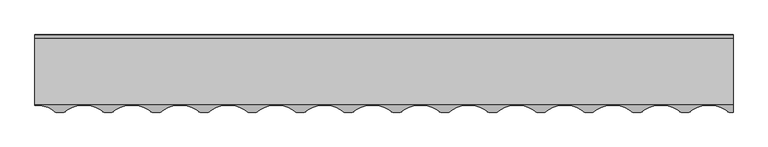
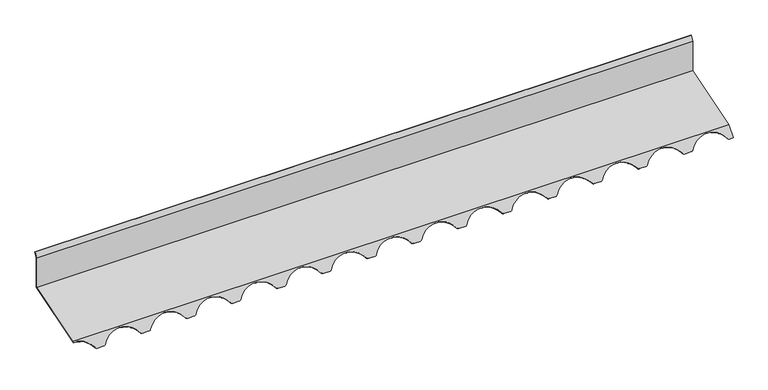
"""IFC4 building model written with IfcOpenShell, lengths in millimetres: proxy geometry, H20.F20.003-E-REMATES TEJA-Troquelado a Pared : Troquelado a Pared Teja."""

from ifc_helpers import new_model, si_unit, point, frame, origin, place, context, project, spatial, ellipse_curve, trimmed, source, transform, mapped, element, save
from ifc_brep_helpers import plane_surface, extruded_surface, advanced_brep


def generic_models_f9b15205(model_context):
    return source(origin(), model_context, "Body", "AdvancedBrep", [
        advanced_brep(
        [(2500.0, 0.0, 0.0), (2500.0, -230.5094655, -70.473816), (2500.0, -257.6202057, -106.3904941), (2500.0, -256.3431683, -107.3544315), (2500.0, -229.5451993, -71.852117), (2500.0, 1.6, -1.1839377), (2500.0, 1.6, 114.1712813), (2500.0, 11.5588457, 131.4205081), (2500.0, 10.0, 132.3205081), (2500.0, 0.0, 115.0), (80.0, 0.0, 0.0), (80.0, -230.5094655, -70.473816), (80.0, -233.3387485, -74.2220887), (147.7180237, -255.2613563, -103.2654582), (154.6321739, -257.6202057, -106.3904941), (178.6878261, -257.6202057, -106.3904941), (185.6019763, -255.2613563, -103.2654582), (314.3780237, -255.2613563, -103.2654582), (321.2921739, -257.6202057, -106.3904941), (345.3478261, -257.6202057, -106.3904941), (352.2619763, -255.2613563, -103.2654582), (481.0380237, -255.2613563, -103.2654582), (487.9521739, -257.6202057, -106.3904941), (512.0078261, -257.6202057, -106.3904941), (518.9219763, -255.2613563, -103.2654582), (647.6980237, -255.2613563, -103.2654582), (654.6121739, -257.6202057, -106.3904941), (678.6678261, -257.6202057, -106.3904941), (685.5819763, -255.2613563, -103.2654582), (814.3580237, -255.2613563, -103.2654582), (821.2721739, -257.6202057, -106.3904941), (845.3278261, -257.6202057, -106.3904941), (852.2419763, -255.2613563, -103.2654582), (981.0180237, -255.2613563, -103.2654582), (987.9321739, -257.6202057, -106.3904941), (1011.9878261, -257.6202057, -106.3904941), (1018.9019763, -255.2613563, -103.2654582), (1147.6780237, -255.2613563, -103.2654582), (1154.5921739, -257.6202057, -106.3904941), (1178.6478261, -257.6202057, -106.3904941), (1185.5619763, -255.2613563, -103.2654582), (1314.3380237, -255.2613563, -103.2654582), (1321.2521739, -257.6202057, -106.3904941), (1345.3078261, -257.6202057, -106.3904941), (1352.2219763, -255.2613563, -103.2654582), (1480.9980237, -255.2613563, -103.2654582), (1487.9121739, -257.6202057, -106.3904941), (1511.9678261, -257.6202057, -106.3904941), (1518.8819763, -255.2613563, -103.2654582), (1647.6580237, -255.2613563, -103.2654582), (1654.5721739, -257.6202057, -106.3904941), (1678.6278261, -257.6202057, -106.3904941), (1685.5419763, -255.2613563, -103.2654582), (1814.3180237, -255.2613563, -103.2654582), (1821.2321739, -257.6202057, -106.3904941), (1845.2878261, -257.6202057, -106.3904941), (1852.2019763, -255.2613563, -103.2654582), (1980.9780237, -255.2613563, -103.2654582), (1987.8921739, -257.6202057, -106.3904941), (2011.9478261, -257.6202057, -106.3904941), (2018.8619763, -255.2613563, -103.2654582), (2147.6380237, -255.2613563, -103.2654582), (2154.5521739, -257.6202057, -106.3904941), (2178.6078261, -257.6202057, -106.3904941), (2185.5219763, -255.2613563, -103.2654582), (2314.2980237, -255.2613563, -103.2654582), (2321.2121739, -257.6202057, -106.3904941), (2345.2678261, -257.6202057, -106.3904941), (2352.1819763, -255.2613563, -103.2654582), (2480.9580237, -255.2613563, -103.2654582), (2487.8721739, -257.6202057, -106.3904941), (2487.8721739, -256.3431683, -107.3544315), (154.6321739, -256.3431683, -107.3544315), (178.6878261, -256.3431683, -107.3544315), (321.2921739, -256.3431683, -107.3544315), (345.3478261, -256.3431683, -107.3544315), (487.9521739, -256.3431683, -107.3544315), (512.0078261, -256.3431683, -107.3544315), (654.6121739, -256.3431683, -107.3544315), (678.6678261, -256.3431683, -107.3544315), (821.2721739, -256.3431683, -107.3544315), (845.3278261, -256.3431683, -107.3544315), (987.9321739, -256.3431683, -107.3544315), (1011.9878261, -256.3431683, -107.3544315), (1154.5921739, -256.3431683, -107.3544315), (1178.6478261, -256.3431683, -107.3544315), (1321.2521739, -256.3431683, -107.3544315), (1345.3078261, -256.3431683, -107.3544315), (1487.9121739, -256.3431683, -107.3544315), (1511.9678261, -256.3431683, -107.3544315), (1654.5721739, -256.3431683, -107.3544315), (1678.6278261, -256.3431683, -107.3544315), (1821.2321739, -256.3431683, -107.3544315), (1845.2878261, -256.3431683, -107.3544315), (1987.8921739, -256.3431683, -107.3544315), (2011.9478261, -256.3431683, -107.3544315), (2154.5521739, -256.3431683, -107.3544315), (2178.6078261, -256.3431683, -107.3544315), (2321.2121739, -256.3431683, -107.3544315), (2345.2678261, -256.3431683, -107.3544315), (2480.9580237, -253.9843188, -104.2293957), (2352.1819763, -253.9843188, -104.2293957), (2314.2980237, -253.9843188, -104.2293957), (2185.5219763, -253.9843188, -104.2293957), (2147.6380237, -253.9843188, -104.2293957), (2018.8619763, -253.9843188, -104.2293957), (1980.9780237, -253.9843188, -104.2293957), (1852.2019763, -253.9843188, -104.2293957), (1814.3180237, -253.9843188, -104.2293957), (1685.5419763, -253.9843188, -104.2293957), (1647.6580237, -253.9843188, -104.2293957), (1518.8819763, -253.9843188, -104.2293957), (1480.9980237, -253.9843188, -104.2293957), (1352.2219763, -253.9843188, -104.2293957), (1314.3380237, -253.9843188, -104.2293957), (1185.5619763, -253.9843188, -104.2293957), (1147.6780237, -253.9843188, -104.2293957), (1018.9019763, -253.9843188, -104.2293957), (981.0180237, -253.9843188, -104.2293957), (852.2419763, -253.9843188, -104.2293957), (814.3580237, -253.9843188, -104.2293957), (685.5819763, -253.9843188, -104.2293957), (647.6980237, -253.9843188, -104.2293957), (518.9219763, -253.9843188, -104.2293957), (481.0380237, -253.9843188, -104.2293957), (352.2619763, -253.9843188, -104.2293957), (314.3780237, -253.9843188, -104.2293957), (185.6019763, -253.9843188, -104.2293957), (147.7180237, -253.9843188, -104.2293957), (80.0, -232.0617111, -75.1860261), (80.0, -229.5451993, -71.852117), (80.0, 1.6, -1.1839377), (80.0, 1.6, 114.1712813), (80.0, 11.5588457, 131.4205081), (80.0, 10.0, 132.3205081), (80.0, 0.0, 115.0)],
        [
            (0, 1),
            (1, 2),
            (2, 3),
            (3, 4),
            (4, 5),
            (5, 6),
            (6, 7),
            (7, 8),
            (8, 9),
            (9, 0),
            (0, 10),
            (10, 11),
            (11, 1),
            (11, 12),
            (12, 13, ellipse_curve(frame((83.33, -277.496029, -132.7222557), z_axis=(0.0, 0.7981484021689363, -0.6024608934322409), x_axis=(1.0, 0.0, 0.0)), 74.5, 73.3681776)),
            (13, 14, ellipse_curve(frame((154.6321739, -252.8737404, -100.1023122), z_axis=(0.0, -0.7981484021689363, 0.6024608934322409), x_axis=(1.0, 0.0, 0.0)), 8.0, 7.878462)),
            (14, 15),
            (15, 16, ellipse_curve(frame((178.6878261, -252.8737404, -100.1023122), z_axis=(0.0, -0.7981484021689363, 0.6024608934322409), x_axis=(1.0, 0.0, 0.0)), 8.0, 7.878462)),
            (16, 17, ellipse_curve(frame((249.99, -277.496029, -132.7222557), z_axis=(0.0, 0.7981484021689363, -0.6024608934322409), x_axis=(1.0, 0.0, 0.0)), 74.5, 73.3681776)),
            (17, 18, ellipse_curve(frame((321.2921739, -252.8737404, -100.1023122), z_axis=(0.0, -0.7981484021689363, 0.6024608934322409), x_axis=(1.0, 0.0, 0.0)), 8.0, 7.878462)),
            (18, 19),
            (19, 20, ellipse_curve(frame((345.3478261, -252.8737404, -100.1023122), z_axis=(0.0, -0.7981484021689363, 0.6024608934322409), x_axis=(1.0, 0.0, 0.0)), 8.0, 7.878462)),
            (20, 21, ellipse_curve(frame((416.65, -277.496029, -132.7222557), z_axis=(0.0, 0.7981484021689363, -0.6024608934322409), x_axis=(1.0, 0.0, 0.0)), 74.5, 73.3681776)),
            (21, 22, ellipse_curve(frame((487.9521739, -252.8737404, -100.1023122), z_axis=(0.0, -0.7981484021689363, 0.6024608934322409), x_axis=(1.0, 0.0, 0.0)), 8.0, 7.878462)),
            (22, 23),
            (23, 24, ellipse_curve(frame((512.0078261, -252.8737404, -100.1023122), z_axis=(0.0, -0.7981484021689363, 0.6024608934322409), x_axis=(1.0, 0.0, 0.0)), 8.0, 7.878462)),
            (24, 25, ellipse_curve(frame((583.31, -277.496029, -132.7222557), z_axis=(0.0, 0.7981484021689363, -0.6024608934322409), x_axis=(1.0, 0.0, 0.0)), 74.5, 73.3681776)),
            (25, 26, ellipse_curve(frame((654.6121739, -252.8737404, -100.1023122), z_axis=(0.0, -0.7981484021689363, 0.6024608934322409), x_axis=(1.0, 0.0, 0.0)), 8.0, 7.878462)),
            (26, 27),
            (27, 28, ellipse_curve(frame((678.6678261, -252.8737404, -100.1023122), z_axis=(0.0, -0.7981484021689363, 0.6024608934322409), x_axis=(1.0, 0.0, 0.0)), 8.0, 7.878462)),
            (28, 29, ellipse_curve(frame((749.97, -277.496029, -132.7222557), z_axis=(0.0, 0.7981484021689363, -0.6024608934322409), x_axis=(1.0, 0.0, 0.0)), 74.5, 73.3681776)),
            (29, 30, ellipse_curve(frame((821.2721739, -252.8737404, -100.1023122), z_axis=(0.0, -0.7981484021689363, 0.6024608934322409), x_axis=(1.0, 0.0, 0.0)), 8.0, 7.878462)),
            (30, 31),
            (31, 32, ellipse_curve(frame((845.3278261, -252.8737404, -100.1023122), z_axis=(0.0, -0.7981484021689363, 0.6024608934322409), x_axis=(1.0, 0.0, 0.0)), 8.0, 7.878462)),
            (32, 33, ellipse_curve(frame((916.63, -277.496029, -132.7222557), z_axis=(0.0, 0.7981484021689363, -0.6024608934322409), x_axis=(1.0, 0.0, 0.0)), 74.5, 73.3681776)),
            (33, 34, ellipse_curve(frame((987.9321739, -252.8737404, -100.1023122), z_axis=(0.0, -0.7981484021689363, 0.6024608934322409), x_axis=(1.0, 0.0, 0.0)), 8.0, 7.878462)),
            (34, 35),
            (35, 36, ellipse_curve(frame((1011.9878261, -252.8737404, -100.1023122), z_axis=(0.0, -0.7981484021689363, 0.6024608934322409), x_axis=(1.0, 0.0, 0.0)), 8.0, 7.878462)),
            (36, 37, ellipse_curve(frame((1083.29, -277.496029, -132.7222557), z_axis=(0.0, 0.7981484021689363, -0.6024608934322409), x_axis=(1.0, 0.0, 0.0)), 74.5, 73.3681776)),
            (37, 38, ellipse_curve(frame((1154.5921739, -252.8737404, -100.1023122), z_axis=(0.0, -0.7981484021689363, 0.6024608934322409), x_axis=(1.0, 0.0, 0.0)), 8.0, 7.878462)),
            (38, 39),
            (39, 40, ellipse_curve(frame((1178.6478261, -252.8737404, -100.1023122), z_axis=(0.0, -0.7981484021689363, 0.6024608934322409), x_axis=(1.0, 0.0, 0.0)), 8.0, 7.878462)),
            (40, 41, ellipse_curve(frame((1249.95, -277.496029, -132.7222557), z_axis=(0.0, 0.7981484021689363, -0.6024608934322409), x_axis=(1.0, 0.0, 0.0)), 74.5, 73.3681776)),
            (41, 42, ellipse_curve(frame((1321.2521739, -252.8737404, -100.1023122), z_axis=(0.0, -0.7981484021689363, 0.6024608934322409), x_axis=(1.0, 0.0, 0.0)), 8.0, 7.878462)),
            (42, 43),
            (43, 44, ellipse_curve(frame((1345.3078261, -252.8737404, -100.1023122), z_axis=(0.0, -0.7981484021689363, 0.6024608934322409), x_axis=(1.0, 0.0, 0.0)), 8.0, 7.878462)),
            (44, 45, ellipse_curve(frame((1416.61, -277.496029, -132.7222557), z_axis=(0.0, 0.7981484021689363, -0.6024608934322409), x_axis=(1.0, 0.0, 0.0)), 74.5, 73.3681776)),
            (45, 46, ellipse_curve(frame((1487.9121739, -252.8737404, -100.1023122), z_axis=(0.0, -0.7981484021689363, 0.6024608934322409), x_axis=(1.0, 0.0, 0.0)), 8.0, 7.878462)),
            (46, 47),
            (47, 48, ellipse_curve(frame((1511.9678261, -252.8737404, -100.1023122), z_axis=(0.0, -0.7981484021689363, 0.6024608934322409), x_axis=(1.0, 0.0, 0.0)), 8.0, 7.878462)),
            (48, 49, ellipse_curve(frame((1583.27, -277.496029, -132.7222557), z_axis=(0.0, 0.7981484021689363, -0.6024608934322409), x_axis=(1.0, 0.0, 0.0)), 74.5, 73.3681776)),
            (49, 50, ellipse_curve(frame((1654.5721739, -252.8737404, -100.1023122), z_axis=(0.0, -0.7981484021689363, 0.6024608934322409), x_axis=(1.0, 0.0, 0.0)), 8.0, 7.878462)),
            (50, 51),
            (51, 52, ellipse_curve(frame((1678.6278261, -252.8737404, -100.1023122), z_axis=(0.0, -0.7981484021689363, 0.6024608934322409), x_axis=(1.0, 0.0, 0.0)), 8.0, 7.878462)),
            (52, 53, ellipse_curve(frame((1749.93, -277.496029, -132.7222557), z_axis=(0.0, 0.7981484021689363, -0.6024608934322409), x_axis=(1.0, 0.0, 0.0)), 74.5, 73.3681776)),
            (53, 54, ellipse_curve(frame((1821.2321739, -252.8737404, -100.1023122), z_axis=(0.0, -0.7981484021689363, 0.6024608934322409), x_axis=(1.0, 0.0, 0.0)), 8.0, 7.878462)),
            (54, 55),
            (55, 56, ellipse_curve(frame((1845.2878261, -252.8737404, -100.1023122), z_axis=(0.0, -0.7981484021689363, 0.6024608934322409), x_axis=(1.0, 0.0, 0.0)), 8.0, 7.878462)),
            (56, 57, ellipse_curve(frame((1916.59, -277.496029, -132.7222557), z_axis=(0.0, 0.7981484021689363, -0.6024608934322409), x_axis=(1.0, 0.0, 0.0)), 74.5, 73.3681776)),
            (57, 58, ellipse_curve(frame((1987.8921739, -252.8737404, -100.1023122), z_axis=(0.0, -0.7981484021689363, 0.6024608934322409), x_axis=(1.0, 0.0, 0.0)), 8.0, 7.878462)),
            (58, 59),
            (59, 60, ellipse_curve(frame((2011.9478261, -252.8737404, -100.1023122), z_axis=(0.0, -0.7981484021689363, 0.6024608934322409), x_axis=(1.0, 0.0, 0.0)), 8.0, 7.878462)),
            (60, 61, ellipse_curve(frame((2083.25, -277.496029, -132.7222557), z_axis=(0.0, 0.7981484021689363, -0.6024608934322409), x_axis=(1.0, 0.0, 0.0)), 74.5, 73.3681776)),
            (61, 62, ellipse_curve(frame((2154.5521739, -252.8737404, -100.1023122), z_axis=(0.0, -0.7981484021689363, 0.6024608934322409), x_axis=(1.0, 0.0, 0.0)), 8.0, 7.878462)),
            (62, 63),
            (63, 64, ellipse_curve(frame((2178.6078261, -252.8737404, -100.1023122), z_axis=(0.0, -0.7981484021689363, 0.6024608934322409), x_axis=(1.0, 0.0, 0.0)), 8.0, 7.878462)),
            (64, 65, ellipse_curve(frame((2249.91, -277.496029, -132.7222557), z_axis=(0.0, 0.7981484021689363, -0.6024608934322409), x_axis=(1.0, 0.0, 0.0)), 74.5, 73.3681776)),
            (65, 66, ellipse_curve(frame((2321.2121739, -252.8737404, -100.1023122), z_axis=(0.0, -0.7981484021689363, 0.6024608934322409), x_axis=(1.0, 0.0, 0.0)), 8.0, 7.878462)),
            (66, 67),
            (67, 68, ellipse_curve(frame((2345.2678261, -252.8737404, -100.1023122), z_axis=(0.0, -0.7981484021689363, 0.6024608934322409), x_axis=(1.0, 0.0, 0.0)), 8.0, 7.878462)),
            (68, 69, ellipse_curve(frame((2416.57, -277.496029, -132.7222557), z_axis=(0.0, 0.7981484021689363, -0.6024608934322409), x_axis=(1.0, 0.0, 0.0)), 74.5, 73.3681776)),
            (69, 70, ellipse_curve(frame((2487.8721739, -252.8737404, -100.1023122), z_axis=(0.0, -0.7981484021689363, 0.6024608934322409), x_axis=(1.0, 0.0, 0.0)), 8.0, 7.878462)),
            (70, 2),
            (70, 71),
            (71, 3),
            (14, 72),
            (72, 73),
            (73, 15),
            (18, 74),
            (74, 75),
            (75, 19),
            (22, 76),
            (76, 77),
            (77, 23),
            (26, 78),
            (78, 79),
            (79, 27),
            (30, 80),
            (80, 81),
            (81, 31),
            (34, 82),
            (82, 83),
            (83, 35),
            (38, 84),
            (84, 85),
            (85, 39),
            (42, 86),
            (86, 87),
            (87, 43),
            (46, 88),
            (88, 89),
            (89, 47),
            (50, 90),
            (90, 91),
            (91, 51),
            (54, 92),
            (92, 93),
            (93, 55),
            (58, 94),
            (94, 95),
            (95, 59),
            (62, 96),
            (96, 97),
            (97, 63),
            (66, 98),
            (98, 99),
            (99, 67),
            (71, 100, ellipse_curve(frame((2487.8721739, -251.596703, -101.0662496), z_axis=(0.0, 0.7981484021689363, -0.6024608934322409), x_axis=(1.0, 0.0, 0.0)), 8.0, 7.878462)),
            (100, 101, ellipse_curve(frame((2416.57, -276.2189916, -133.6861931), z_axis=(0.0, -0.7981484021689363, 0.6024608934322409), x_axis=(1.0, 0.0, 0.0)), 74.5, 73.3681776)),
            (101, 99, ellipse_curve(frame((2345.2678261, -251.596703, -101.0662496), z_axis=(0.0, 0.7981484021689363, -0.6024608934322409), x_axis=(1.0, 0.0, 0.0)), 8.0, 7.878462)),
            (98, 102, ellipse_curve(frame((2321.2121739, -251.596703, -101.0662496), z_axis=(0.0, 0.7981484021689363, -0.6024608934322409), x_axis=(1.0, 0.0, 0.0)), 8.0, 7.878462)),
            (102, 103, ellipse_curve(frame((2249.91, -276.2189916, -133.6861931), z_axis=(0.0, -0.7981484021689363, 0.6024608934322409), x_axis=(1.0, 0.0, 0.0)), 74.5, 73.3681776)),
            (103, 97, ellipse_curve(frame((2178.6078261, -251.596703, -101.0662496), z_axis=(0.0, 0.7981484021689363, -0.6024608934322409), x_axis=(1.0, 0.0, 0.0)), 8.0, 7.878462)),
            (96, 104, ellipse_curve(frame((2154.5521739, -251.596703, -101.0662496), z_axis=(0.0, 0.7981484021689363, -0.6024608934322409), x_axis=(1.0, 0.0, 0.0)), 8.0, 7.878462)),
            (104, 105, ellipse_curve(frame((2083.25, -276.2189916, -133.6861931), z_axis=(0.0, -0.7981484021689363, 0.6024608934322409), x_axis=(1.0, 0.0, 0.0)), 74.5, 73.3681776)),
            (105, 95, ellipse_curve(frame((2011.9478261, -251.596703, -101.0662496), z_axis=(0.0, 0.7981484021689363, -0.6024608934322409), x_axis=(1.0, 0.0, 0.0)), 8.0, 7.878462)),
            (94, 106, ellipse_curve(frame((1987.8921739, -251.596703, -101.0662496), z_axis=(0.0, 0.7981484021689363, -0.6024608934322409), x_axis=(1.0, 0.0, 0.0)), 8.0, 7.878462)),
            (106, 107, ellipse_curve(frame((1916.59, -276.2189916, -133.6861931), z_axis=(0.0, -0.7981484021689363, 0.6024608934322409), x_axis=(1.0, 0.0, 0.0)), 74.5, 73.3681776)),
            (107, 93, ellipse_curve(frame((1845.2878261, -251.596703, -101.0662496), z_axis=(0.0, 0.7981484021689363, -0.6024608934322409), x_axis=(1.0, 0.0, 0.0)), 8.0, 7.878462)),
            (92, 108, ellipse_curve(frame((1821.2321739, -251.596703, -101.0662496), z_axis=(0.0, 0.7981484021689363, -0.6024608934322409), x_axis=(1.0, 0.0, 0.0)), 8.0, 7.878462)),
            (108, 109, ellipse_curve(frame((1749.93, -276.2189916, -133.6861931), z_axis=(0.0, -0.7981484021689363, 0.6024608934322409), x_axis=(1.0, 0.0, 0.0)), 74.5, 73.3681776)),
            (109, 91, ellipse_curve(frame((1678.6278261, -251.596703, -101.0662496), z_axis=(0.0, 0.7981484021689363, -0.6024608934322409), x_axis=(1.0, 0.0, 0.0)), 8.0, 7.878462)),
            (90, 110, ellipse_curve(frame((1654.5721739, -251.596703, -101.0662496), z_axis=(0.0, 0.7981484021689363, -0.6024608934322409), x_axis=(1.0, 0.0, 0.0)), 8.0, 7.878462)),
            (110, 111, ellipse_curve(frame((1583.27, -276.2189916, -133.6861931), z_axis=(0.0, -0.7981484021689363, 0.6024608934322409), x_axis=(1.0, 0.0, 0.0)), 74.5, 73.3681776)),
            (111, 89, ellipse_curve(frame((1511.9678261, -251.596703, -101.0662496), z_axis=(0.0, 0.7981484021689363, -0.6024608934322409), x_axis=(1.0, 0.0, 0.0)), 8.0, 7.878462)),
            (88, 112, ellipse_curve(frame((1487.9121739, -251.596703, -101.0662496), z_axis=(0.0, 0.7981484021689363, -0.6024608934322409), x_axis=(1.0, 0.0, 0.0)), 8.0, 7.878462)),
            (112, 113, ellipse_curve(frame((1416.61, -276.2189916, -133.6861931), z_axis=(0.0, -0.7981484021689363, 0.6024608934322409), x_axis=(1.0, 0.0, 0.0)), 74.5, 73.3681776)),
            (113, 87, ellipse_curve(frame((1345.3078261, -251.596703, -101.0662496), z_axis=(0.0, 0.7981484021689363, -0.6024608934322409), x_axis=(1.0, 0.0, 0.0)), 8.0, 7.878462)),
            (86, 114, ellipse_curve(frame((1321.2521739, -251.596703, -101.0662496), z_axis=(0.0, 0.7981484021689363, -0.6024608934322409), x_axis=(1.0, 0.0, 0.0)), 8.0, 7.878462)),
            (114, 115, ellipse_curve(frame((1249.95, -276.2189916, -133.6861931), z_axis=(0.0, -0.7981484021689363, 0.6024608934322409), x_axis=(1.0, 0.0, 0.0)), 74.5, 73.3681776)),
            (115, 85, ellipse_curve(frame((1178.6478261, -251.596703, -101.0662496), z_axis=(0.0, 0.7981484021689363, -0.6024608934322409), x_axis=(1.0, 0.0, 0.0)), 8.0, 7.878462)),
            (84, 116, ellipse_curve(frame((1154.5921739, -251.596703, -101.0662496), z_axis=(0.0, 0.7981484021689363, -0.6024608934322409), x_axis=(1.0, 0.0, 0.0)), 8.0, 7.878462)),
            (116, 117, ellipse_curve(frame((1083.29, -276.2189916, -133.6861931), z_axis=(0.0, -0.7981484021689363, 0.6024608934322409), x_axis=(1.0, 0.0, 0.0)), 74.5, 73.3681776)),
            (117, 83, ellipse_curve(frame((1011.9878261, -251.596703, -101.0662496), z_axis=(0.0, 0.7981484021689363, -0.6024608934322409), x_axis=(1.0, 0.0, 0.0)), 8.0, 7.878462)),
            (82, 118, ellipse_curve(frame((987.9321739, -251.596703, -101.0662496), z_axis=(0.0, 0.7981484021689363, -0.6024608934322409), x_axis=(1.0, 0.0, 0.0)), 8.0, 7.878462)),
            (118, 119, ellipse_curve(frame((916.63, -276.2189916, -133.6861931), z_axis=(0.0, -0.7981484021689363, 0.6024608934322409), x_axis=(1.0, 0.0, 0.0)), 74.5, 73.3681776)),
            (119, 81, ellipse_curve(frame((845.3278261, -251.596703, -101.0662496), z_axis=(0.0, 0.7981484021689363, -0.6024608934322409), x_axis=(1.0, 0.0, 0.0)), 8.0, 7.878462)),
            (80, 120, ellipse_curve(frame((821.2721739, -251.596703, -101.0662496), z_axis=(0.0, 0.7981484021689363, -0.6024608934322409), x_axis=(1.0, 0.0, 0.0)), 8.0, 7.878462)),
            (120, 121, ellipse_curve(frame((749.97, -276.2189916, -133.6861931), z_axis=(0.0, -0.7981484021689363, 0.6024608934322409), x_axis=(1.0, 0.0, 0.0)), 74.5, 73.3681776)),
            (121, 79, ellipse_curve(frame((678.6678261, -251.596703, -101.0662496), z_axis=(0.0, 0.7981484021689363, -0.6024608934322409), x_axis=(1.0, 0.0, 0.0)), 8.0, 7.878462)),
            (78, 122, ellipse_curve(frame((654.6121739, -251.596703, -101.0662496), z_axis=(0.0, 0.7981484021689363, -0.6024608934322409), x_axis=(1.0, 0.0, 0.0)), 8.0, 7.878462)),
            (122, 123, ellipse_curve(frame((583.31, -276.2189916, -133.6861931), z_axis=(0.0, -0.7981484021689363, 0.6024608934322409), x_axis=(1.0, 0.0, 0.0)), 74.5, 73.3681776)),
            (123, 77, ellipse_curve(frame((512.0078261, -251.596703, -101.0662496), z_axis=(0.0, 0.7981484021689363, -0.6024608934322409), x_axis=(1.0, 0.0, 0.0)), 8.0, 7.878462)),
            (76, 124, ellipse_curve(frame((487.9521739, -251.596703, -101.0662496), z_axis=(0.0, 0.7981484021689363, -0.6024608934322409), x_axis=(1.0, 0.0, 0.0)), 8.0, 7.878462)),
            (124, 125, ellipse_curve(frame((416.65, -276.2189916, -133.6861931), z_axis=(0.0, -0.7981484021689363, 0.6024608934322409), x_axis=(1.0, 0.0, 0.0)), 74.5, 73.3681776)),
            (125, 75, ellipse_curve(frame((345.3478261, -251.596703, -101.0662496), z_axis=(0.0, 0.7981484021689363, -0.6024608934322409), x_axis=(1.0, 0.0, 0.0)), 8.0, 7.878462)),
            (74, 126, ellipse_curve(frame((321.2921739, -251.596703, -101.0662496), z_axis=(0.0, 0.7981484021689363, -0.6024608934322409), x_axis=(1.0, 0.0, 0.0)), 8.0, 7.878462)),
            (126, 127, ellipse_curve(frame((249.99, -276.2189916, -133.6861931), z_axis=(0.0, -0.7981484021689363, 0.6024608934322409), x_axis=(1.0, 0.0, 0.0)), 74.5, 73.3681776)),
            (127, 73, ellipse_curve(frame((178.6878261, -251.596703, -101.0662496), z_axis=(0.0, 0.7981484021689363, -0.6024608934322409), x_axis=(1.0, 0.0, 0.0)), 8.0, 7.878462)),
            (72, 128, ellipse_curve(frame((154.6321739, -251.596703, -101.0662496), z_axis=(0.0, 0.7981484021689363, -0.6024608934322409), x_axis=(1.0, 0.0, 0.0)), 8.0, 7.878462)),
            (128, 129, ellipse_curve(frame((83.33, -276.2189916, -133.6861931), z_axis=(0.0, -0.7981484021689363, 0.6024608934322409), x_axis=(1.0, 0.0, 0.0)), 74.5, 73.3681776)),
            (129, 130),
            (130, 4),
            (128, 13),
            (12, 129),
            (127, 16),
            (126, 17),
            (125, 20),
            (124, 21),
            (123, 24),
            (122, 25),
            (121, 28),
            (120, 29),
            (119, 32),
            (118, 33),
            (117, 36),
            (116, 37),
            (115, 40),
            (114, 41),
            (113, 44),
            (112, 45),
            (111, 48),
            (110, 49),
            (109, 52),
            (108, 53),
            (107, 56),
            (106, 57),
            (105, 60),
            (104, 61),
            (103, 64),
            (102, 65),
            (101, 68),
            (100, 69),
            (130, 131),
            (131, 5),
            (131, 132),
            (132, 6),
            (132, 133),
            (133, 7),
            (133, 134),
            (134, 8),
            (134, 135),
            (135, 9),
            (135, 10),
        ],
        [
            plane_surface(frame((2500.0, 0.0, 0.0), z_axis=(1.0, 0.0, 0.0), x_axis=(0.0, 0.0, 1.0))),
            plane_surface(frame((2500.0, 0.0, 0.0), z_axis=(0.0, -0.2923717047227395, 0.9563047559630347), x_axis=(-1.0, 0.0, 0.0))),
            plane_surface(frame((2500.0, -230.5094655, -70.473816), z_axis=(0.0, -0.7981484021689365, 0.6024608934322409), x_axis=(-1.0, 0.0, 0.0))),
            plane_surface(frame((2500.0, -257.6202057, -106.3904941), z_axis=(0.0, -0.6024608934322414, -0.798148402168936), x_axis=(-1.0, 0.0, 0.0))),
            plane_surface(frame((2500.0, -256.3431683, -107.3544315), z_axis=(0.0, 0.7981484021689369, -0.6024608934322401), x_axis=(-1.0, 0.0, 0.0))),
            extruded_surface(trimmed(ellipse_curve(frame((83.33, -277.496029, -132.7222557), z_axis=(0.0, 0.7981484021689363, -0.6024608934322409), x_axis=(1.0, 0.0, 0.0)), 74.5, 73.3681776), [point((18.9419763, -255.2613563, -103.2654582))], [point((147.7180237, -255.2613563, -103.2654582))], True, "CARTESIAN"), (0.0, -1.5962968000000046, 1.204921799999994), 2.00000000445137),
            extruded_surface(trimmed(ellipse_curve(frame((154.6321739, -252.8737404, -100.1023122), z_axis=(0.0, -0.7981484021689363, 0.6024608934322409), x_axis=(1.0, 0.0, 0.0)), 8.0, 7.878462), [point((147.7180237, -255.2613563, -103.2654582))], [point((154.6321739, -257.6202057, -106.3904941))], True, "CARTESIAN"), (0.0, -1.5962968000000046, 1.204921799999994), 2.00000000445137),
            extruded_surface(trimmed(ellipse_curve(frame((178.6878261, -252.8737404, -100.1023122), z_axis=(0.0, -0.7981484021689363, 0.6024608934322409), x_axis=(1.0, 0.0, 0.0)), 8.0, 7.878462), [point((178.6878261, -257.6202057, -106.3904941))], [point((185.6019763, -255.2613563, -103.2654582))], True, "CARTESIAN"), (0.0, -1.5962968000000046, 1.204921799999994), 2.00000000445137),
            extruded_surface(trimmed(ellipse_curve(frame((249.99, -277.496029, -132.7222557), z_axis=(0.0, 0.7981484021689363, -0.6024608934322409), x_axis=(1.0, 0.0, 0.0)), 74.5, 73.3681776), [point((185.6019763, -255.2613563, -103.2654582))], [point((314.3780237, -255.2613563, -103.2654582))], True, "CARTESIAN"), (0.0, -1.5962968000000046, 1.204921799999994), 2.00000000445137),
            extruded_surface(trimmed(ellipse_curve(frame((321.2921739, -252.8737404, -100.1023122), z_axis=(0.0, -0.7981484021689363, 0.6024608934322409), x_axis=(1.0, 0.0, 0.0)), 8.0, 7.878462), [point((314.3780237, -255.2613563, -103.2654582))], [point((321.2921739, -257.6202057, -106.3904941))], True, "CARTESIAN"), (0.0, -1.5962968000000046, 1.204921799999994), 2.00000000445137),
            extruded_surface(trimmed(ellipse_curve(frame((345.3478261, -252.8737404, -100.1023122), z_axis=(0.0, -0.7981484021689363, 0.6024608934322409), x_axis=(1.0, 0.0, 0.0)), 8.0, 7.878462), [point((345.3478261, -257.6202057, -106.3904941))], [point((352.2619763, -255.2613563, -103.2654582))], True, "CARTESIAN"), (0.0, -1.5962968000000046, 1.204921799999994), 2.00000000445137),
            extruded_surface(trimmed(ellipse_curve(frame((416.65, -277.496029, -132.7222557), z_axis=(0.0, 0.7981484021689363, -0.6024608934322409), x_axis=(1.0, 0.0, 0.0)), 74.5, 73.3681776), [point((352.2619763, -255.2613563, -103.2654582))], [point((481.0380237, -255.2613563, -103.2654582))], True, "CARTESIAN"), (0.0, -1.5962968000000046, 1.204921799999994), 2.00000000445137),
            extruded_surface(trimmed(ellipse_curve(frame((487.9521739, -252.8737404, -100.1023122), z_axis=(0.0, -0.7981484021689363, 0.6024608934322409), x_axis=(1.0, 0.0, 0.0)), 8.0, 7.878462), [point((481.0380237, -255.2613563, -103.2654582))], [point((487.9521739, -257.6202057, -106.3904941))], True, "CARTESIAN"), (0.0, -1.5962968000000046, 1.204921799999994), 2.00000000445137),
            extruded_surface(trimmed(ellipse_curve(frame((512.0078261, -252.8737404, -100.1023122), z_axis=(0.0, -0.7981484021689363, 0.6024608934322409), x_axis=(1.0, 0.0, 0.0)), 8.0, 7.878462), [point((512.0078261, -257.6202057, -106.3904941))], [point((518.9219763, -255.2613563, -103.2654582))], True, "CARTESIAN"), (0.0, -1.5962968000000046, 1.204921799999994), 2.00000000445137),
            extruded_surface(trimmed(ellipse_curve(frame((583.31, -277.496029, -132.7222557), z_axis=(0.0, 0.7981484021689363, -0.6024608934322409), x_axis=(1.0, 0.0, 0.0)), 74.5, 73.3681776), [point((518.9219763, -255.2613563, -103.2654582))], [point((647.6980237, -255.2613563, -103.2654582))], True, "CARTESIAN"), (0.0, -1.5962968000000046, 1.204921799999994), 2.00000000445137),
            extruded_surface(trimmed(ellipse_curve(frame((654.6121739, -252.8737404, -100.1023122), z_axis=(0.0, -0.7981484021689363, 0.6024608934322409), x_axis=(1.0, 0.0, 0.0)), 8.0, 7.878462), [point((647.6980237, -255.2613563, -103.2654582))], [point((654.6121739, -257.6202057, -106.3904941))], True, "CARTESIAN"), (0.0, -1.5962968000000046, 1.204921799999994), 2.00000000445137),
            extruded_surface(trimmed(ellipse_curve(frame((678.6678261, -252.8737404, -100.1023122), z_axis=(0.0, -0.7981484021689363, 0.6024608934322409), x_axis=(1.0, 0.0, 0.0)), 8.0, 7.878462), [point((678.6678261, -257.6202057, -106.3904941))], [point((685.5819763, -255.2613563, -103.2654582))], True, "CARTESIAN"), (0.0, -1.5962968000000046, 1.204921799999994), 2.00000000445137),
            extruded_surface(trimmed(ellipse_curve(frame((749.97, -277.496029, -132.7222557), z_axis=(0.0, 0.7981484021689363, -0.6024608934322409), x_axis=(1.0, 0.0, 0.0)), 74.5, 73.3681776), [point((685.5819763, -255.2613563, -103.2654582))], [point((814.3580237, -255.2613563, -103.2654582))], True, "CARTESIAN"), (0.0, -1.5962968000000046, 1.204921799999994), 2.00000000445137),
            extruded_surface(trimmed(ellipse_curve(frame((821.2721739, -252.8737404, -100.1023122), z_axis=(0.0, -0.7981484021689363, 0.6024608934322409), x_axis=(1.0, 0.0, 0.0)), 8.0, 7.878462), [point((814.3580237, -255.2613563, -103.2654582))], [point((821.2721739, -257.6202057, -106.3904941))], True, "CARTESIAN"), (0.0, -1.5962968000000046, 1.204921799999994), 2.00000000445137),
            extruded_surface(trimmed(ellipse_curve(frame((845.3278261, -252.8737404, -100.1023122), z_axis=(0.0, -0.7981484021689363, 0.6024608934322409), x_axis=(1.0, 0.0, 0.0)), 8.0, 7.878462), [point((845.3278261, -257.6202057, -106.3904941))], [point((852.2419763, -255.2613563, -103.2654582))], True, "CARTESIAN"), (0.0, -1.5962968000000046, 1.204921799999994), 2.00000000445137),
            extruded_surface(trimmed(ellipse_curve(frame((916.63, -277.496029, -132.7222557), z_axis=(0.0, 0.7981484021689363, -0.6024608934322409), x_axis=(1.0, 0.0, 0.0)), 74.5, 73.3681776), [point((852.2419763, -255.2613563, -103.2654582))], [point((981.0180237, -255.2613563, -103.2654582))], True, "CARTESIAN"), (0.0, -1.5962968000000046, 1.204921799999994), 2.00000000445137),
            extruded_surface(trimmed(ellipse_curve(frame((987.9321739, -252.8737404, -100.1023122), z_axis=(0.0, -0.7981484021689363, 0.6024608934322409), x_axis=(1.0, 0.0, 0.0)), 8.0, 7.878462), [point((981.0180237, -255.2613563, -103.2654582))], [point((987.9321739, -257.6202057, -106.3904941))], True, "CARTESIAN"), (0.0, -1.5962968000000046, 1.204921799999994), 2.00000000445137),
            extruded_surface(trimmed(ellipse_curve(frame((1011.9878261, -252.8737404, -100.1023122), z_axis=(0.0, -0.7981484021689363, 0.6024608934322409), x_axis=(1.0, 0.0, 0.0)), 8.0, 7.878462), [point((1011.9878261, -257.6202057, -106.3904941))], [point((1018.9019763, -255.2613563, -103.2654582))], True, "CARTESIAN"), (0.0, -1.5962968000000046, 1.204921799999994), 2.00000000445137),
            extruded_surface(trimmed(ellipse_curve(frame((1083.29, -277.496029, -132.7222557), z_axis=(0.0, 0.7981484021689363, -0.6024608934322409), x_axis=(1.0, 0.0, 0.0)), 74.5, 73.3681776), [point((1018.9019763, -255.2613563, -103.2654582))], [point((1147.6780237, -255.2613563, -103.2654582))], True, "CARTESIAN"), (0.0, -1.5962968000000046, 1.204921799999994), 2.00000000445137),
            extruded_surface(trimmed(ellipse_curve(frame((1154.5921739, -252.8737404, -100.1023122), z_axis=(0.0, -0.7981484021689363, 0.6024608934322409), x_axis=(1.0, 0.0, 0.0)), 8.0, 7.878462), [point((1147.6780237, -255.2613563, -103.2654582))], [point((1154.5921739, -257.6202057, -106.3904941))], True, "CARTESIAN"), (0.0, -1.5962968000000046, 1.204921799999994), 2.00000000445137),
            extruded_surface(trimmed(ellipse_curve(frame((1178.6478261, -252.8737404, -100.1023122), z_axis=(0.0, -0.7981484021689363, 0.6024608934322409), x_axis=(1.0, 0.0, 0.0)), 8.0, 7.878462), [point((1178.6478261, -257.6202057, -106.3904941))], [point((1185.5619763, -255.2613563, -103.2654582))], True, "CARTESIAN"), (0.0, -1.5962968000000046, 1.204921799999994), 2.00000000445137),
            extruded_surface(trimmed(ellipse_curve(frame((1249.95, -277.496029, -132.7222557), z_axis=(0.0, 0.7981484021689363, -0.6024608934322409), x_axis=(1.0, 0.0, 0.0)), 74.5, 73.3681776), [point((1185.5619763, -255.2613563, -103.2654582))], [point((1314.3380237, -255.2613563, -103.2654582))], True, "CARTESIAN"), (0.0, -1.5962968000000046, 1.204921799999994), 2.00000000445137),
            extruded_surface(trimmed(ellipse_curve(frame((1321.2521739, -252.8737404, -100.1023122), z_axis=(0.0, -0.7981484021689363, 0.6024608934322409), x_axis=(1.0, 0.0, 0.0)), 8.0, 7.878462), [point((1314.3380237, -255.2613563, -103.2654582))], [point((1321.2521739, -257.6202057, -106.3904941))], True, "CARTESIAN"), (0.0, -1.5962968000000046, 1.204921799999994), 2.00000000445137),
            extruded_surface(trimmed(ellipse_curve(frame((1345.3078261, -252.8737404, -100.1023122), z_axis=(0.0, -0.7981484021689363, 0.6024608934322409), x_axis=(1.0, 0.0, 0.0)), 8.0, 7.878462), [point((1345.3078261, -257.6202057, -106.3904941))], [point((1352.2219763, -255.2613563, -103.2654582))], True, "CARTESIAN"), (0.0, -1.5962968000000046, 1.204921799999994), 2.00000000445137),
            extruded_surface(trimmed(ellipse_curve(frame((1416.61, -277.496029, -132.7222557), z_axis=(0.0, 0.7981484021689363, -0.6024608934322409), x_axis=(1.0, 0.0, 0.0)), 74.5, 73.3681776), [point((1352.2219763, -255.2613563, -103.2654582))], [point((1480.9980237, -255.2613563, -103.2654582))], True, "CARTESIAN"), (0.0, -1.5962968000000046, 1.204921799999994), 2.00000000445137),
            extruded_surface(trimmed(ellipse_curve(frame((1487.9121739, -252.8737404, -100.1023122), z_axis=(0.0, -0.7981484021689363, 0.6024608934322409), x_axis=(1.0, 0.0, 0.0)), 8.0, 7.878462), [point((1480.9980237, -255.2613563, -103.2654582))], [point((1487.9121739, -257.6202057, -106.3904941))], True, "CARTESIAN"), (0.0, -1.5962968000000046, 1.204921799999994), 2.00000000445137),
            extruded_surface(trimmed(ellipse_curve(frame((1511.9678261, -252.8737404, -100.1023122), z_axis=(0.0, -0.7981484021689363, 0.6024608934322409), x_axis=(1.0, 0.0, 0.0)), 8.0, 7.878462), [point((1511.9678261, -257.6202057, -106.3904941))], [point((1518.8819763, -255.2613563, -103.2654582))], True, "CARTESIAN"), (0.0, -1.5962968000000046, 1.204921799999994), 2.00000000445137),
            extruded_surface(trimmed(ellipse_curve(frame((1583.27, -277.496029, -132.7222557), z_axis=(0.0, 0.7981484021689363, -0.6024608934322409), x_axis=(1.0, 0.0, 0.0)), 74.5, 73.3681776), [point((1518.8819763, -255.2613563, -103.2654582))], [point((1647.6580237, -255.2613563, -103.2654582))], True, "CARTESIAN"), (0.0, -1.5962968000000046, 1.204921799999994), 2.00000000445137),
            extruded_surface(trimmed(ellipse_curve(frame((1654.5721739, -252.8737404, -100.1023122), z_axis=(0.0, -0.7981484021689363, 0.6024608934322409), x_axis=(1.0, 0.0, 0.0)), 8.0, 7.878462), [point((1647.6580237, -255.2613563, -103.2654582))], [point((1654.5721739, -257.6202057, -106.3904941))], True, "CARTESIAN"), (0.0, -1.5962968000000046, 1.204921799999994), 2.00000000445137),
            extruded_surface(trimmed(ellipse_curve(frame((1678.6278261, -252.8737404, -100.1023122), z_axis=(0.0, -0.7981484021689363, 0.6024608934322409), x_axis=(1.0, 0.0, 0.0)), 8.0, 7.878462), [point((1678.6278261, -257.6202057, -106.3904941))], [point((1685.5419763, -255.2613563, -103.2654582))], True, "CARTESIAN"), (0.0, -1.5962968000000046, 1.204921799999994), 2.00000000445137),
            extruded_surface(trimmed(ellipse_curve(frame((1749.93, -277.496029, -132.7222557), z_axis=(0.0, 0.7981484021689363, -0.6024608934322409), x_axis=(1.0, 0.0, 0.0)), 74.5, 73.3681776), [point((1685.5419763, -255.2613563, -103.2654582))], [point((1814.3180237, -255.2613563, -103.2654582))], True, "CARTESIAN"), (0.0, -1.5962968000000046, 1.204921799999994), 2.00000000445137),
            extruded_surface(trimmed(ellipse_curve(frame((1821.2321739, -252.8737404, -100.1023122), z_axis=(0.0, -0.7981484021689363, 0.6024608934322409), x_axis=(1.0, 0.0, 0.0)), 8.0, 7.878462), [point((1814.3180237, -255.2613563, -103.2654582))], [point((1821.2321739, -257.6202057, -106.3904941))], True, "CARTESIAN"), (0.0, -1.5962968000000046, 1.204921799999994), 2.00000000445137),
            extruded_surface(trimmed(ellipse_curve(frame((1845.2878261, -252.8737404, -100.1023122), z_axis=(0.0, -0.7981484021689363, 0.6024608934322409), x_axis=(1.0, 0.0, 0.0)), 8.0, 7.878462), [point((1845.2878261, -257.6202057, -106.3904941))], [point((1852.2019763, -255.2613563, -103.2654582))], True, "CARTESIAN"), (0.0, -1.5962968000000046, 1.204921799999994), 2.00000000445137),
            extruded_surface(trimmed(ellipse_curve(frame((1916.59, -277.496029, -132.7222557), z_axis=(0.0, 0.7981484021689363, -0.6024608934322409), x_axis=(1.0, 0.0, 0.0)), 74.5, 73.3681776), [point((1852.2019763, -255.2613563, -103.2654582))], [point((1980.9780237, -255.2613563, -103.2654582))], True, "CARTESIAN"), (0.0, -1.5962968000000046, 1.204921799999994), 2.00000000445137),
            extruded_surface(trimmed(ellipse_curve(frame((1987.8921739, -252.8737404, -100.1023122), z_axis=(0.0, -0.7981484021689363, 0.6024608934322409), x_axis=(1.0, 0.0, 0.0)), 8.0, 7.878462), [point((1980.9780237, -255.2613563, -103.2654582))], [point((1987.8921739, -257.6202057, -106.3904941))], True, "CARTESIAN"), (0.0, -1.5962968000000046, 1.204921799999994), 2.00000000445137),
            extruded_surface(trimmed(ellipse_curve(frame((2011.9478261, -252.8737404, -100.1023122), z_axis=(0.0, -0.7981484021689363, 0.6024608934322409), x_axis=(1.0, 0.0, 0.0)), 8.0, 7.878462), [point((2011.9478261, -257.6202057, -106.3904941))], [point((2018.8619763, -255.2613563, -103.2654582))], True, "CARTESIAN"), (0.0, -1.5962968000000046, 1.204921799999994), 2.00000000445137),
            extruded_surface(trimmed(ellipse_curve(frame((2083.25, -277.496029, -132.7222557), z_axis=(0.0, 0.7981484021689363, -0.6024608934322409), x_axis=(1.0, 0.0, 0.0)), 74.5, 73.3681776), [point((2018.8619763, -255.2613563, -103.2654582))], [point((2147.6380237, -255.2613563, -103.2654582))], True, "CARTESIAN"), (0.0, -1.5962968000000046, 1.204921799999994), 2.00000000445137),
            extruded_surface(trimmed(ellipse_curve(frame((2154.5521739, -252.8737404, -100.1023122), z_axis=(0.0, -0.7981484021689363, 0.6024608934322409), x_axis=(1.0, 0.0, 0.0)), 8.0, 7.878462), [point((2147.6380237, -255.2613563, -103.2654582))], [point((2154.5521739, -257.6202057, -106.3904941))], True, "CARTESIAN"), (0.0, -1.5962968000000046, 1.204921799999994), 2.00000000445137),
            extruded_surface(trimmed(ellipse_curve(frame((2178.6078261, -252.8737404, -100.1023122), z_axis=(0.0, -0.7981484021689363, 0.6024608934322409), x_axis=(1.0, 0.0, 0.0)), 8.0, 7.878462), [point((2178.6078261, -257.6202057, -106.3904941))], [point((2185.5219763, -255.2613563, -103.2654582))], True, "CARTESIAN"), (0.0, -1.5962968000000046, 1.204921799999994), 2.00000000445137),
            extruded_surface(trimmed(ellipse_curve(frame((2249.91, -277.496029, -132.7222557), z_axis=(0.0, 0.7981484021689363, -0.6024608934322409), x_axis=(1.0, 0.0, 0.0)), 74.5, 73.3681776), [point((2185.5219763, -255.2613563, -103.2654582))], [point((2314.2980237, -255.2613563, -103.2654582))], True, "CARTESIAN"), (0.0, -1.5962968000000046, 1.204921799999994), 2.00000000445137),
            extruded_surface(trimmed(ellipse_curve(frame((2321.2121739, -252.8737404, -100.1023122), z_axis=(0.0, -0.7981484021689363, 0.6024608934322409), x_axis=(1.0, 0.0, 0.0)), 8.0, 7.878462), [point((2314.2980237, -255.2613563, -103.2654582))], [point((2321.2121739, -257.6202057, -106.3904941))], True, "CARTESIAN"), (0.0, -1.5962968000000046, 1.204921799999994), 2.00000000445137),
            extruded_surface(trimmed(ellipse_curve(frame((2345.2678261, -252.8737404, -100.1023122), z_axis=(0.0, -0.7981484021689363, 0.6024608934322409), x_axis=(1.0, 0.0, 0.0)), 8.0, 7.878462), [point((2345.2678261, -257.6202057, -106.3904941))], [point((2352.1819763, -255.2613563, -103.2654582))], True, "CARTESIAN"), (0.0, -1.5962968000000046, 1.204921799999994), 2.00000000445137),
            extruded_surface(trimmed(ellipse_curve(frame((2416.57, -277.496029, -132.7222557), z_axis=(0.0, 0.7981484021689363, -0.6024608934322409), x_axis=(1.0, 0.0, 0.0)), 74.5, 73.3681776), [point((2352.1819763, -255.2613563, -103.2654582))], [point((2480.9580237, -255.2613563, -103.2654582))], True, "CARTESIAN"), (0.0, -1.5962968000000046, 1.204921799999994), 2.00000000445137),
            extruded_surface(trimmed(ellipse_curve(frame((2487.8721739, -252.8737404, -100.1023122), z_axis=(0.0, -0.7981484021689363, 0.6024608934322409), x_axis=(1.0, 0.0, 0.0)), 8.0, 7.878462), [point((2480.9580237, -255.2613563, -103.2654582))], [point((2487.8721739, -257.6202057, -106.3904941))], True, "CARTESIAN"), (0.0, -1.5962968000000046, 1.204921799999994), 2.00000000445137),
            plane_surface(frame((2500.0, -229.5451993, -71.852117), z_axis=(0.0, 0.2923717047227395, -0.9563047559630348), x_axis=(-1.0, 0.0, 0.0))),
            plane_surface(frame((2500.0, 1.6, -1.1839377), z_axis=(0.0, 1.0, 0.0), x_axis=(-1.0, 0.0, 0.0))),
            plane_surface(frame((2500.0, 1.6, 114.1712813), z_axis=(0.0, 0.866025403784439, -0.49999999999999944), x_axis=(-1.0, 0.0, 0.0))),
            plane_surface(frame((2500.0, 11.5588457, 131.4205081), z_axis=(0.0, 0.4999999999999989, 0.8660254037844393), x_axis=(-1.0, 0.0, 0.0))),
            plane_surface(frame((2500.0, 10.0, 132.3205081), z_axis=(0.0, -0.8660254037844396, 0.4999999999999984), x_axis=(-1.0, 0.0, 0.0))),
            plane_surface(frame((2500.0, 0.0, 115.0), z_axis=(0.0, -1.0, 0.0), x_axis=(-1.0, 0.0, 0.0))),
            plane_surface(frame((80.0, -379.1513497, 250.0), z_axis=(-1.0, 0.0, 0.0), x_axis=(0.0, 0.0, -1.0))),
        ],
        [
            (0, [[1, 2, 3, 4, 5, 6, 7, 8, 9, 10]]),
            (1, [[-1, 11, 12, 13]]),
            (2, [[-2, -13, 14, 15, 16, 17, 18, 19, 20, 21, 22, 23, 24, 25, 26, 27, 28, 29, 30, 31, 32, 33, 34, 35, 36, 37, 38, 39, 40, 41, 42, 43, 44, 45, 46, 47, 48, 49, 50, 51, 52, 53, 54, 55, 56, 57, 58, 59, 60, 61, 62, 63, 64, 65, 66, 67, 68, 69, 70, 71, 72, 73]]),
            (3, [[-3, -73, 74, 75]]),
            (3, [[-17, 76, 77, 78]]),
            (3, [[-21, 79, 80, 81]]),
            (3, [[-25, 82, 83, 84]]),
            (3, [[-29, 85, 86, 87]]),
            (3, [[-33, 88, 89, 90]]),
            (3, [[-37, 91, 92, 93]]),
            (3, [[-41, 94, 95, 96]]),
            (3, [[-45, 97, 98, 99]]),
            (3, [[-49, 100, 101, 102]]),
            (3, [[-53, 103, 104, 105]]),
            (3, [[-57, 106, 107, 108]]),
            (3, [[-61, 109, 110, 111]]),
            (3, [[-65, 112, 113, 114]]),
            (3, [[-69, 115, 116, 117]]),
            (4, [[-4, -75, 118, 119, 120, -116, 121, 122, 123, -113, 124, 125, 126, -110, 127, 128, 129, -107, 130, 131, 132, -104, 133, 134, 135, -101, 136, 137, 138, -98, 139, 140, 141, -95, 142, 143, 144, -92, 145, 146, 147, -89, 148, 149, 150, -86, 151, 152, 153, -83, 154, 155, 156, -80, 157, 158, 159, -77, 160, 161, 162, 163]]),
            (5, [[164, -15, 165, -161]]),
            (6, [[-164, -160, -76, -16]]),
            (7, [[166, -18, -78, -159]]),
            (8, [[-166, -158, 167, -19]]),
            (9, [[-167, -157, -79, -20]]),
            (10, [[168, -22, -81, -156]]),
            (11, [[-168, -155, 169, -23]]),
            (12, [[-169, -154, -82, -24]]),
            (13, [[170, -26, -84, -153]]),
            (14, [[-170, -152, 171, -27]]),
            (15, [[-171, -151, -85, -28]]),
            (16, [[172, -30, -87, -150]]),
            (17, [[-172, -149, 173, -31]]),
            (18, [[-173, -148, -88, -32]]),
            (19, [[174, -34, -90, -147]]),
            (20, [[-174, -146, 175, -35]]),
            (21, [[-175, -145, -91, -36]]),
            (22, [[176, -38, -93, -144]]),
            (23, [[-176, -143, 177, -39]]),
            (24, [[-177, -142, -94, -40]]),
            (25, [[178, -42, -96, -141]]),
            (26, [[-178, -140, 179, -43]]),
            (27, [[-179, -139, -97, -44]]),
            (28, [[180, -46, -99, -138]]),
            (29, [[-180, -137, 181, -47]]),
            (30, [[-181, -136, -100, -48]]),
            (31, [[182, -50, -102, -135]]),
            (32, [[-182, -134, 183, -51]]),
            (33, [[-183, -133, -103, -52]]),
            (34, [[184, -54, -105, -132]]),
            (35, [[-184, -131, 185, -55]]),
            (36, [[-185, -130, -106, -56]]),
            (37, [[186, -58, -108, -129]]),
            (38, [[-186, -128, 187, -59]]),
            (39, [[-187, -127, -109, -60]]),
            (40, [[188, -62, -111, -126]]),
            (41, [[-188, -125, 189, -63]]),
            (42, [[-189, -124, -112, -64]]),
            (43, [[190, -66, -114, -123]]),
            (44, [[-190, -122, 191, -67]]),
            (45, [[-191, -121, -115, -68]]),
            (46, [[192, -70, -117, -120]]),
            (47, [[-192, -119, 193, -71]]),
            (48, [[-193, -118, -74, -72]]),
            (49, [[-5, -163, 194, 195]]),
            (50, [[-6, -195, 196, 197]]),
            (51, [[-7, -197, 198, 199]]),
            (52, [[-8, -199, 200, 201]]),
            (53, [[-9, -201, 202, 203]]),
            (54, [[-10, -203, 204, -11]]),
            (55, [[-12, -204, -202, -200, -198, -196, -194, -162, -165, -14]]),
        ],
    ),
    ])


if __name__ == "__main__":
    model = new_model("IFC4")
    model_context = context("Model", 3, world=origin())
    ifc_project = project(units=[si_unit("LENGTHUNIT", "METRE", prefix="MILLI")], contexts=[model_context])
    site = spatial("IfcSite", under=ifc_project)
    building = spatial("IfcBuilding", under=site)
    placement = place(None, origin())
    generic_models_shape = generic_models_f9b15205(model_context)
    element("IfcBuildingElementProxy", 1, Name="H20.F20.003-E-REMATES TEJA-Troquelado a Pared : Troquelado a Pared Teja", ObjectType="H20.F20.003-E-REMATES TEJA-Troquelado a Pared : Troquelado a Pared Teja", at=placement, inside=building, context=model_context, shape_type="MappedRepresentation", body=[
        mapped(generic_models_shape, transform((0.0, 0.0, 0.0), x_axis=(1.0, 0.0, 0.0), y_axis=(0.0, 1.0, 0.0), z_axis=(0.0, 0.0, 1.0))),
    ])
    save(model, "model.ifc")
